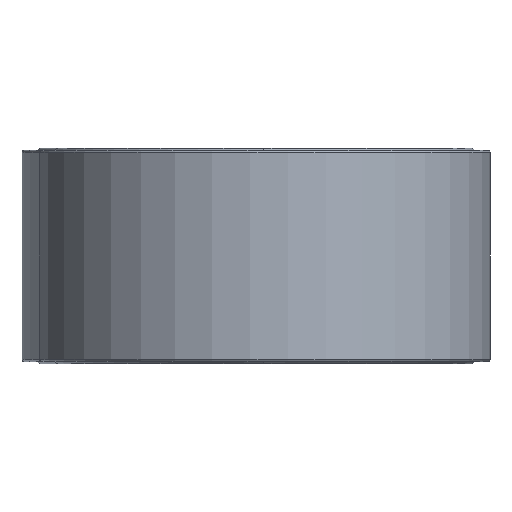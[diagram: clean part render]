
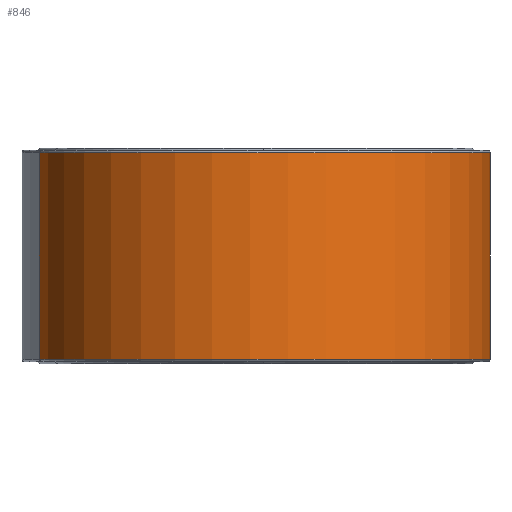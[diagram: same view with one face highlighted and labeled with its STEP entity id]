
A CAD part, left-side view. The second image highlights one B-rep face of the part: STEP entity #846.
In plain terms, the highlighted cylindrical face has radius 47.25 mm (diameter 94.5 mm), a partial arc.
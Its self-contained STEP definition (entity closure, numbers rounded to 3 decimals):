
#39 = EDGE_LOOP ( 'NONE', ( #3592, #3299, #2506, #3066 ) ) ;
#169 = VECTOR ( 'NONE', #3261, 1000. ) ;
#221 = CYLINDRICAL_SURFACE ( 'NONE', #398, 47.25 ) ;
#241 = VERTEX_POINT ( 'NONE', #1737 ) ;
#274 = DIRECTION ( 'NONE',  ( 0., 0., 1. ) ) ;
#311 = CIRCLE ( 'NONE', #2871, 47.25 ) ;
#376 = CARTESIAN_POINT ( 'NONE',  ( 11.231, -45.896, 21.5 ) ) ;
#398 = AXIS2_PLACEMENT_3D ( 'NONE', #3821, #2275, #3189 ) ;
#434 = EDGE_CURVE ( 'NONE', #241, #2921, #974, .T. ) ;
#526 = FACE_OUTER_BOUND ( 'NONE', #39, .T. ) ;
#846 = ADVANCED_FACE ( 'NONE', ( #526 ), #221, .T. ) ;
#891 = CARTESIAN_POINT ( 'NONE',  ( 0., 0., 21.5 ) ) ;
#896 = DIRECTION ( 'NONE',  ( 0., 0., 1. ) ) ;
#945 = AXIS2_PLACEMENT_3D ( 'NONE', #891, #274, #2550 ) ;
#957 = EDGE_CURVE ( 'NONE', #1269, #3245, #1188, .T. ) ;
#974 = LINE ( 'NONE', #4107, #3472 ) ;
#1188 = LINE ( 'NONE', #1975, #169 ) ;
#1269 = VERTEX_POINT ( 'NONE', #1509 ) ;
#1340 = DIRECTION ( 'NONE',  ( 1., 0., 0. ) ) ;
#1367 = EDGE_CURVE ( 'NONE', #241, #1269, #311, .T. ) ;
#1371 = CARTESIAN_POINT ( 'NONE',  ( -6.966, 46.734, 21.5 ) ) ;
#1509 = CARTESIAN_POINT ( 'NONE',  ( 11.231, -45.896, -21.5 ) ) ;
#1737 = CARTESIAN_POINT ( 'NONE',  ( -6.966, 46.734, -21.5 ) ) ;
#1975 = CARTESIAN_POINT ( 'NONE',  ( 11.231, -45.896, 21.5 ) ) ;
#2028 = DIRECTION ( 'NONE',  ( 0., 0., 1. ) ) ;
#2275 = DIRECTION ( 'NONE',  ( 0., 0., 1. ) ) ;
#2506 = ORIENTED_EDGE ( 'NONE', *, *, #957, .T. ) ;
#2550 = DIRECTION ( 'NONE',  ( 1., 0., 0. ) ) ;
#2679 = EDGE_CURVE ( 'NONE', #2921, #3245, #2689, .T. ) ;
#2689 = CIRCLE ( 'NONE', #945, 47.25 ) ;
#2871 = AXIS2_PLACEMENT_3D ( 'NONE', #3293, #2028, #1340 ) ;
#2921 = VERTEX_POINT ( 'NONE', #1371 ) ;
#3066 = ORIENTED_EDGE ( 'NONE', *, *, #2679, .F. ) ;
#3189 = DIRECTION ( 'NONE',  ( 1., 0., 0. ) ) ;
#3245 = VERTEX_POINT ( 'NONE', #376 ) ;
#3261 = DIRECTION ( 'NONE',  ( 0., 0., 1. ) ) ;
#3293 = CARTESIAN_POINT ( 'NONE',  ( 0., 0., -21.5 ) ) ;
#3299 = ORIENTED_EDGE ( 'NONE', *, *, #1367, .T. ) ;
#3472 = VECTOR ( 'NONE', #896, 1000. ) ;
#3592 = ORIENTED_EDGE ( 'NONE', *, *, #434, .F. ) ;
#3821 = CARTESIAN_POINT ( 'NONE',  ( 0., 0., 0. ) ) ;
#4107 = CARTESIAN_POINT ( 'NONE',  ( -6.966, 46.734, 21.5 ) ) ;
